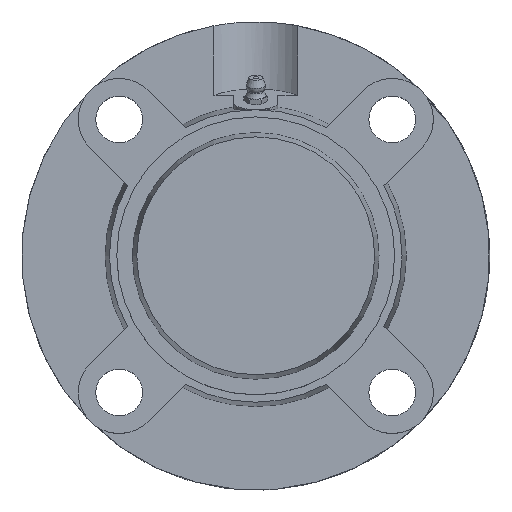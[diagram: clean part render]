
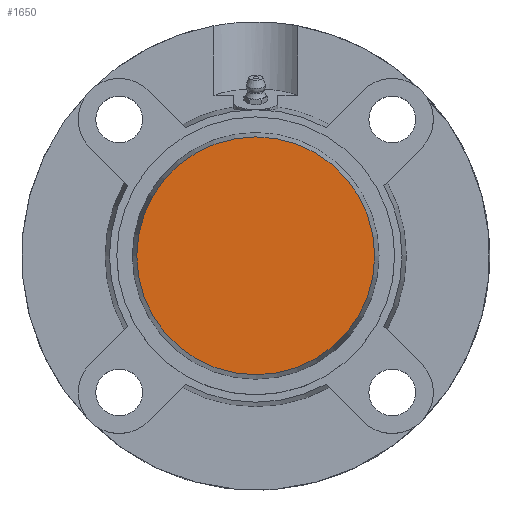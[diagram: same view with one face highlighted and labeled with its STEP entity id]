
A CAD part, top view. The second image highlights one B-rep face of the part: STEP entity #1650.
In plain terms, the highlighted planar face has unit normal (0, 0, 1).
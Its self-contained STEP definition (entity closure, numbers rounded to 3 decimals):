
#1634=CARTESIAN_POINT('',(0.0,20.332,30.));
#1635=DIRECTION('',(0.0,0.0,1.0));
#1636=DIRECTION('',(1.0,0.0,0.0));
#1637=AXIS2_PLACEMENT_3D('',#1634,#1635,#1636);
#1638=PLANE('',#1637);
#1639=CARTESIAN_POINT('',(0.0,40.664,30.));
#1640=VERTEX_POINT('',#1639);
#1641=CARTESIAN_POINT('',(0.0,0.,30.));
#1642=DIRECTION('',(0.0,0.0,-1.0));
#1643=DIRECTION('',(0.0,1.0,0.0));
#1644=AXIS2_PLACEMENT_3D('',#1641,#1642,#1643);
#1645=CIRCLE('',#1644,40.664);
#1646=EDGE_CURVE('',#1640,#1640,#1645,.T.);
#1647=ORIENTED_EDGE('',*,*,#1646,.F.);
#1648=EDGE_LOOP('',(#1647));
#1649=FACE_OUTER_BOUND('',#1648,.T.);
#1650=ADVANCED_FACE('',(#1649),#1638,.T.);
